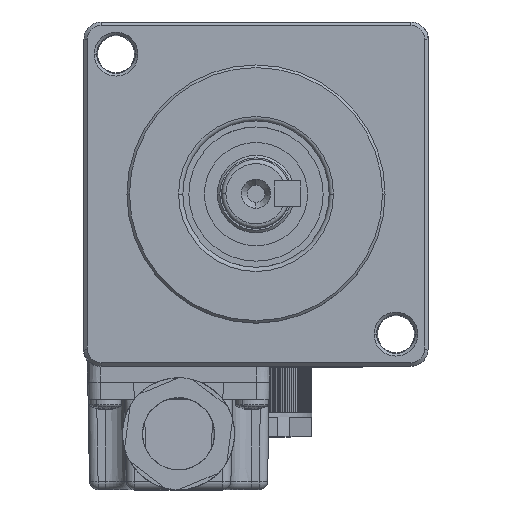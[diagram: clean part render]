
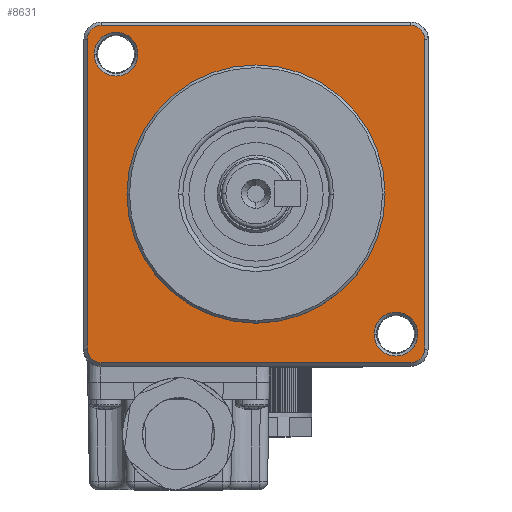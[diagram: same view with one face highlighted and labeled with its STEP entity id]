
A CAD part, top view. The second image highlights one B-rep face of the part: STEP entity #8631.
In plain terms, the highlighted planar face has unit normal (0, 0, 1).
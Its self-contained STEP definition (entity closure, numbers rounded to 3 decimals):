
#589 = EDGE_CURVE ( 'NONE', #64032, #17861, #17228, .T. ) ;
#971 = CIRCLE ( 'NONE', #11744, 2.55 ) ;
#1648 = CARTESIAN_POINT ( 'NONE',  ( 17.432, -14.71, 104. ) ) ;
#2326 = VECTOR ( 'NONE', #47908, 1000. ) ;
#3359 = CIRCLE ( 'NONE', #22525, 2.55 ) ;
#4165 = CARTESIAN_POINT ( 'NONE',  ( 1.169, -18.047, 104. ) ) ;
#4739 = DIRECTION ( 'NONE',  ( 1., 0., 0. ) ) ;
#6847 = VERTEX_POINT ( 'NONE', #31304 ) ;
#6949 = DIRECTION ( 'NONE',  ( 1., 0., 0. ) ) ;
#7079 = CARTESIAN_POINT ( 'NONE',  ( -18.431, 19.553, 104. ) ) ;
#7895 = DIRECTION ( 'NONE',  ( 0., 0., -1. ) ) ;
#8588 = CARTESIAN_POINT ( 'NONE',  ( -18.431, 1.553, 104. ) ) ;
#8631 = ADVANCED_FACE ( 'NONE', ( #25954, #66183, #48207, #38291 ), #47404, .T. ) ;
#9919 = LINE ( 'NONE', #31025, #36248 ) ;
#10150 = CIRCLE ( 'NONE', #65560, 1.6 ) ;
#11744 = AXIS2_PLACEMENT_3D ( 'NONE', #13753, #50495, #19026 ) ;
#12230 = ORIENTED_EDGE ( 'NONE', *, *, #30050, .F. ) ;
#12246 = CARTESIAN_POINT ( 'NONE',  ( 20.769, 19.553, 104. ) ) ;
#12821 = ORIENTED_EDGE ( 'NONE', *, *, #44151, .F. ) ;
#13036 = VERTEX_POINT ( 'NONE', #54992 ) ;
#13039 = ORIENTED_EDGE ( 'NONE', *, *, #64375, .F. ) ;
#13753 = CARTESIAN_POINT ( 'NONE',  ( -15.095, 17.817, 104. ) ) ;
#16483 = VERTEX_POINT ( 'NONE', #12246 ) ;
#17228 = CIRCLE ( 'NONE', #19782, 2.55 ) ;
#17861 = VERTEX_POINT ( 'NONE', #65373 ) ;
#17975 = LINE ( 'NONE', #42618, #2326 ) ;
#18641 = EDGE_LOOP ( 'NONE', ( #46067, #12230 ) ) ;
#18741 = EDGE_CURVE ( 'NONE', #55960, #41615, #46932, .T. ) ;
#18966 = EDGE_LOOP ( 'NONE', ( #29932, #35056 ) ) ;
#19026 = DIRECTION ( 'NONE',  ( 1., 0., 0. ) ) ;
#19170 = DIRECTION ( 'NONE',  ( 0., 1., 0. ) ) ;
#19307 = VECTOR ( 'NONE', #19170, 1000. ) ;
#19782 = AXIS2_PLACEMENT_3D ( 'NONE', #56096, #24642, #61392 ) ;
#20112 = CARTESIAN_POINT ( 'NONE',  ( 1.169, 1.553, 104. ) ) ;
#20217 = VERTEX_POINT ( 'NONE', #48336 ) ;
#21163 = CARTESIAN_POINT ( 'NONE',  ( 1.169, 1.553, 104. ) ) ;
#22502 = AXIS2_PLACEMENT_3D ( 'NONE', #27395, #64117, #32696 ) ;
#22525 = AXIS2_PLACEMENT_3D ( 'NONE', #61901, #30464, #67158 ) ;
#23685 = EDGE_CURVE ( 'NONE', #16483, #33822, #17975, .T. ) ;
#23831 = DIRECTION ( 'NONE',  ( 0., 0., -1. ) ) ;
#24035 = EDGE_LOOP ( 'NONE', ( #12821, #40290, #63415, #28292, #57026, #13039, #34249, #53599 ) ) ;
#24642 = DIRECTION ( 'NONE',  ( 0., 0., 1. ) ) ;
#25380 = DIRECTION ( 'NONE',  ( 1., 0., 0. ) ) ;
#25803 = EDGE_CURVE ( 'NONE', #41615, #40912, #61214, .T. ) ;
#25954 = FACE_BOUND ( 'NONE', #18641, .T. ) ;
#25996 = VERTEX_POINT ( 'NONE', #62544 ) ;
#26453 = DIRECTION ( 'NONE',  ( 1., 0., 0. ) ) ;
#26599 = EDGE_CURVE ( 'NONE', #33822, #20217, #62193, .T. ) ;
#27395 = CARTESIAN_POINT ( 'NONE',  ( -16.831, -16.447, 104. ) ) ;
#28292 = ORIENTED_EDGE ( 'NONE', *, *, #52041, .F. ) ;
#28349 = VERTEX_POINT ( 'NONE', #31606 ) ;
#28781 = CARTESIAN_POINT ( 'NONE',  ( -18.431, -16.447, 104. ) ) ;
#29234 = LINE ( 'NONE', #4165, #41592 ) ;
#29932 = ORIENTED_EDGE ( 'NONE', *, *, #53439, .F. ) ;
#30050 = EDGE_CURVE ( 'NONE', #17861, #64032, #971, .T. ) ;
#30464 = DIRECTION ( 'NONE',  ( 0., 0., 1. ) ) ;
#30518 = AXIS2_PLACEMENT_3D ( 'NONE', #20112, #56826, #25380 ) ;
#31025 = CARTESIAN_POINT ( 'NONE',  ( 1.169, 21.153, 104. ) ) ;
#31304 = CARTESIAN_POINT ( 'NONE',  ( 19.169, 21.153, 104. ) ) ;
#31464 = DIRECTION ( 'NONE',  ( 0., 0., -1. ) ) ;
#31606 = CARTESIAN_POINT ( 'NONE',  ( 19.982, -14.71, 104. ) ) ;
#32459 = ORIENTED_EDGE ( 'NONE', *, *, #67863, .F. ) ;
#32696 = DIRECTION ( 'NONE',  ( 1., 0., 0. ) ) ;
#33754 = VERTEX_POINT ( 'NONE', #57738 ) ;
#33822 = VERTEX_POINT ( 'NONE', #63463 ) ;
#34249 = ORIENTED_EDGE ( 'NONE', *, *, #25803, .F. ) ;
#34905 = AXIS2_PLACEMENT_3D ( 'NONE', #62921, #31464, #68182 ) ;
#35056 = ORIENTED_EDGE ( 'NONE', *, *, #56049, .F. ) ;
#36011 = CIRCLE ( 'NONE', #30518, 15. ) ;
#36236 = DIRECTION ( 'NONE',  ( 0., 0., 1. ) ) ;
#36248 = VECTOR ( 'NONE', #36326, 1000. ) ;
#36326 = DIRECTION ( 'NONE',  ( 1., 0., 0. ) ) ;
#38291 = FACE_BOUND ( 'NONE', #67187, .T. ) ;
#38441 = DIRECTION ( 'NONE',  ( 0., 0., 1. ) ) ;
#39176 = CIRCLE ( 'NONE', #61263, 2.55 ) ;
#39358 = CARTESIAN_POINT ( 'NONE',  ( 19.169, 19.553, 104. ) ) ;
#39877 = CARTESIAN_POINT ( 'NONE',  ( 16.169, 1.553, 104. ) ) ;
#40290 = ORIENTED_EDGE ( 'NONE', *, *, #26599, .F. ) ;
#40912 = VERTEX_POINT ( 'NONE', #7079 ) ;
#41206 = CIRCLE ( 'NONE', #52677, 15. ) ;
#41592 = VECTOR ( 'NONE', #46048, 1000. ) ;
#41615 = VERTEX_POINT ( 'NONE', #28781 ) ;
#41974 = AXIS2_PLACEMENT_3D ( 'NONE', #55255, #23831, #60572 ) ;
#42618 = CARTESIAN_POINT ( 'NONE',  ( 20.769, 1.553, 104. ) ) ;
#43502 = VERTEX_POINT ( 'NONE', #39877 ) ;
#44151 = EDGE_CURVE ( 'NONE', #20217, #55960, #29234, .T. ) ;
#44688 = DIRECTION ( 'NONE',  ( 1., 0., 0. ) ) ;
#45953 = EDGE_CURVE ( 'NONE', #43502, #13036, #36011, .T. ) ;
#46048 = DIRECTION ( 'NONE',  ( -1., 0., 0. ) ) ;
#46067 = ORIENTED_EDGE ( 'NONE', *, *, #589, .F. ) ;
#46932 = CIRCLE ( 'NONE', #22502, 1.6 ) ;
#47404 = PLANE ( 'NONE',  #64119 ) ;
#47903 = CARTESIAN_POINT ( 'NONE',  ( -16.831, -18.047, 104. ) ) ;
#47908 = DIRECTION ( 'NONE',  ( 0., -1., 0. ) ) ;
#48207 = FACE_OUTER_BOUND ( 'NONE', #24035, .T. ) ;
#48336 = CARTESIAN_POINT ( 'NONE',  ( 19.169, -18.047, 104. ) ) ;
#50495 = DIRECTION ( 'NONE',  ( 0., 0., 1. ) ) ;
#52041 = EDGE_CURVE ( 'NONE', #6847, #16483, #10150, .T. ) ;
#52677 = AXIS2_PLACEMENT_3D ( 'NONE', #67664, #36236, #4739 ) ;
#53439 = EDGE_CURVE ( 'NONE', #28349, #25996, #3359, .T. ) ;
#53465 = ORIENTED_EDGE ( 'NONE', *, *, #45953, .F. ) ;
#53599 = ORIENTED_EDGE ( 'NONE', *, *, #18741, .F. ) ;
#54992 = CARTESIAN_POINT ( 'NONE',  ( -13.831, 1.553, 104. ) ) ;
#55255 = CARTESIAN_POINT ( 'NONE',  ( -16.831, 19.553, 104. ) ) ;
#55960 = VERTEX_POINT ( 'NONE', #47903 ) ;
#56049 = EDGE_CURVE ( 'NONE', #25996, #28349, #39176, .T. ) ;
#56096 = CARTESIAN_POINT ( 'NONE',  ( -15.095, 17.817, 104. ) ) ;
#56458 = CARTESIAN_POINT ( 'NONE',  ( -12.545, 17.817, 104. ) ) ;
#56826 = DIRECTION ( 'NONE',  ( 0., 0., 1. ) ) ;
#57026 = ORIENTED_EDGE ( 'NONE', *, *, #67277, .F. ) ;
#57738 = CARTESIAN_POINT ( 'NONE',  ( -16.831, 21.153, 104. ) ) ;
#57903 = DIRECTION ( 'NONE',  ( 0., 0., 1. ) ) ;
#60572 = DIRECTION ( 'NONE',  ( 1., 0., 0. ) ) ;
#61214 = LINE ( 'NONE', #8588, #19307 ) ;
#61263 = AXIS2_PLACEMENT_3D ( 'NONE', #1648, #38441, #6949 ) ;
#61392 = DIRECTION ( 'NONE',  ( 1., 0., 0. ) ) ;
#61807 = CIRCLE ( 'NONE', #41974, 1.6 ) ;
#61901 = CARTESIAN_POINT ( 'NONE',  ( 17.432, -14.71, 104. ) ) ;
#62193 = CIRCLE ( 'NONE', #34905, 1.6 ) ;
#62544 = CARTESIAN_POINT ( 'NONE',  ( 14.882, -14.71, 104. ) ) ;
#62921 = CARTESIAN_POINT ( 'NONE',  ( 19.169, -16.447, 104. ) ) ;
#63415 = ORIENTED_EDGE ( 'NONE', *, *, #23685, .F. ) ;
#63463 = CARTESIAN_POINT ( 'NONE',  ( 20.769, -16.447, 104. ) ) ;
#64032 = VERTEX_POINT ( 'NONE', #56458 ) ;
#64117 = DIRECTION ( 'NONE',  ( 0., 0., -1. ) ) ;
#64119 = AXIS2_PLACEMENT_3D ( 'NONE', #21163, #57903, #26453 ) ;
#64375 = EDGE_CURVE ( 'NONE', #40912, #33754, #61807, .T. ) ;
#65373 = CARTESIAN_POINT ( 'NONE',  ( -17.645, 17.817, 104. ) ) ;
#65560 = AXIS2_PLACEMENT_3D ( 'NONE', #39358, #7895, #44688 ) ;
#66183 = FACE_BOUND ( 'NONE', #18966, .T. ) ;
#67158 = DIRECTION ( 'NONE',  ( 1., 0., 0. ) ) ;
#67187 = EDGE_LOOP ( 'NONE', ( #53465, #32459 ) ) ;
#67277 = EDGE_CURVE ( 'NONE', #33754, #6847, #9919, .T. ) ;
#67664 = CARTESIAN_POINT ( 'NONE',  ( 1.169, 1.553, 104. ) ) ;
#67863 = EDGE_CURVE ( 'NONE', #13036, #43502, #41206, .T. ) ;
#68182 = DIRECTION ( 'NONE',  ( 1., 0., 0. ) ) ;
